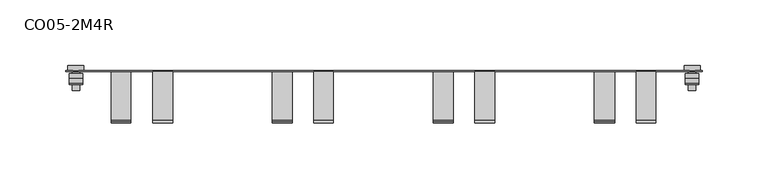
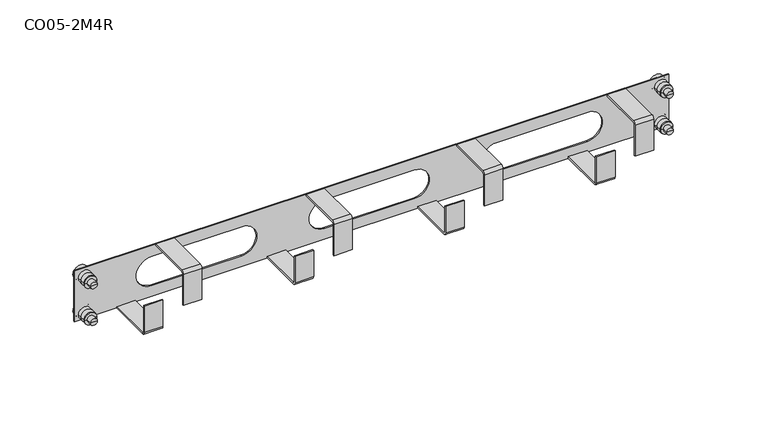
"""IFC4 building model written with IfcOpenShell, lengths in millimetres: proxy geometry, Кабельный организатор_2M4R : CO05-2M4R."""

from ifc_helpers import new_model, si_unit, point, frame, frame_2d, origin, place, context, project, spatial, polyline, circle_curve, ellipse_curve, trimmed, segment, composite_curve, outline, extrude, source, transform, mapped, element, save
from ifc_brep_helpers import plane_surface, cylinder_surface, revolved_surface, advanced_brep


def co05_2m4r_d7d3fd6c(model_context):
    return source(origin(), model_context, "Body", "SolidModel", [
        extrude(outline(composite_curve([segment(polyline([(-40.0242487, 14.6090777), (-40.0242487, 41.1999986)]), True, "CONTINUOUS"), segment(trimmed(circle_curve(frame_2d((-37.6242473, 41.1999986)), 2.4000014), [point((-40.0242487, 41.1999986))], [point((-37.6242473, 43.6))], False, "CARTESIAN"), True, "CONTINUOUS"), segment(polyline([(-37.6242473, 43.6), (-1.0, 43.6), (-1.0, 42.1261762), (-37.6242473, 42.1261762)]), True, "CONTINUOUS"), segment(trimmed(circle_curve(frame_2d((-37.6242473, 40.7261747)), 1.4000014), [point((-37.6242473, 42.1261762))], [point((-39.0242487, 40.7261747))], True, "CARTESIAN"), True, "CONTINUOUS"), segment(polyline([(-39.0242487, 40.7261747), (-39.0242487, 14.6090777), (-40.0242487, 14.6090777)]), True, "CONTINUOUS")], self_intersect=False)), frame((190.9689119, 0.0, 0.0), z_axis=(1.0, 0.0, 0.0), x_axis=(0.0, 1.0, 0.0)), (0.0, 0.0, 1.0), 15.0093264),
        extrude(outline(composite_curve([segment(polyline([(-40.0242487, 14.6090777), (-40.0242487, 41.1999986)]), True, "CONTINUOUS"), segment(trimmed(circle_curve(frame_2d((-37.6242473, 41.1999986)), 2.4000014), [point((-40.0242487, 41.1999986))], [point((-37.6242473, 43.6))], False, "CARTESIAN"), True, "CONTINUOUS"), segment(polyline([(-37.6242473, 43.6), (-1.0, 43.6), (-1.0, 42.1261762), (-37.6242473, 42.1261762)]), True, "CONTINUOUS"), segment(trimmed(circle_curve(frame_2d((-37.6242473, 40.7261747)), 1.4000014), [point((-37.6242473, 42.1261762))], [point((-39.0242487, 40.7261747))], True, "CARTESIAN"), True, "CONTINUOUS"), segment(polyline([(-39.0242487, 40.7261747), (-39.0242487, 14.6090777), (-40.0242487, 14.6090777)]), True, "CONTINUOUS")], self_intersect=False)), frame((68.893057, 0.0, 0.0), z_axis=(1.0, 0.0, 0.0), x_axis=(0.0, 1.0, 0.0)), (0.0, 0.0, 1.0), 15.0093264),
        extrude(outline(composite_curve([segment(polyline([(-40.0242487, 14.6090777), (-40.0242487, 41.1999986)]), True, "CONTINUOUS"), segment(trimmed(circle_curve(frame_2d((-37.6242473, 41.1999986)), 2.4000014), [point((-40.0242487, 41.1999986))], [point((-37.6242473, 43.6))], False, "CARTESIAN"), True, "CONTINUOUS"), segment(polyline([(-37.6242473, 43.6), (-1.0, 43.6), (-1.0, 42.1261762), (-37.6242473, 42.1261762)]), True, "CONTINUOUS"), segment(trimmed(circle_curve(frame_2d((-37.6242473, 40.7261747)), 1.4000014), [point((-37.6242473, 42.1261762))], [point((-39.0242487, 40.7261747))], True, "CARTESIAN"), True, "CONTINUOUS"), segment(polyline([(-39.0242487, 40.7261747), (-39.0242487, 14.6090777), (-40.0242487, 14.6090777)]), True, "CONTINUOUS")], self_intersect=False)), frame((-53.1827979, 0.0, 0.0), z_axis=(1.0, 0.0, 0.0), x_axis=(0.0, 1.0, 0.0)), (0.0, 0.0, 1.0), 14.759171),
        extrude(outline(composite_curve([segment(trimmed(circle_curve(frame_2d((-37.5967834, 2.4274653)), 2.4274653), [point((-37.5967834, 0.0))], [point((-40.0242487, 2.4274653))], False, "CARTESIAN"), True, "CONTINUOUS"), segment(polyline([(-40.0242487, 2.4274653), (-40.0242487, 25.015544), (-39.0242487, 25.015544), (-39.0242487, 2.9283979)]), True, "CONTINUOUS"), segment(trimmed(circle_curve(frame_2d((-37.5967834, 2.9283979)), 1.4274653), [point((-39.0242487, 2.9283979))], [point((-37.5967834, 1.5009326))], True, "CARTESIAN"), True, "CONTINUOUS"), segment(polyline([(-37.5967834, 1.5009326), (-1.0, 1.5009326), (-1.0, 0.0), (-37.5967834, 0.0)]), True, "CONTINUOUS")], self_intersect=False)), frame((159.4493264, 0.0, 0.0), z_axis=(1.0, 0.0, 0.0), x_axis=(0.0, 1.0, 0.0)), (0.0, 0.0, 1.0), 15.2594819),
        extrude(outline(composite_curve([segment(trimmed(circle_curve(frame_2d((-37.5967834, 2.4274653)), 2.4274653), [point((-37.5967834, 0.0))], [point((-40.0242487, 2.4274653))], False, "CARTESIAN"), True, "CONTINUOUS"), segment(polyline([(-40.0242487, 2.4274653), (-40.0242487, 25.015544), (-39.0242487, 25.015544), (-39.0242487, 2.9283979)]), True, "CONTINUOUS"), segment(trimmed(circle_curve(frame_2d((-37.5967834, 2.9283979)), 1.4274653), [point((-39.0242487, 2.9283979))], [point((-37.5967834, 1.5009326))], True, "CARTESIAN"), True, "CONTINUOUS"), segment(polyline([(-37.5967834, 1.5009326), (-1.0, 1.5009326), (-1.0, 0.0), (-37.5967834, 0.0)]), True, "CONTINUOUS")], self_intersect=False)), frame((37.3734715, 0.0, 0.0), z_axis=(1.0, 0.0, 0.0), x_axis=(0.0, 1.0, 0.0)), (0.0, 0.0, 1.0), 15.0093264),
        extrude(outline(composite_curve([segment(trimmed(circle_curve(frame_2d((-37.5967834, 2.4274653)), 2.4274653), [point((-37.5967834, 0.0))], [point((-40.0242487, 2.4274653))], False, "CARTESIAN"), True, "CONTINUOUS"), segment(polyline([(-40.0242487, 2.4274653), (-40.0242487, 25.015544), (-39.0242487, 25.015544), (-39.0242487, 2.9283979)]), True, "CONTINUOUS"), segment(trimmed(circle_curve(frame_2d((-37.5967834, 2.9283979)), 1.4274653), [point((-39.0242487, 2.9283979))], [point((-37.5967834, 1.5009326))], True, "CARTESIAN"), True, "CONTINUOUS"), segment(polyline([(-37.5967834, 1.5009326), (-1.0, 1.5009326), (-1.0, 0.0), (-37.5967834, 0.0)]), True, "CONTINUOUS")], self_intersect=False)), frame((-84.7023834, 0.0, 0.0), z_axis=(1.0, 0.0, 0.0), x_axis=(0.0, 1.0, 0.0)), (0.0, 0.0, 1.0), 15.0093264),
        extrude(outline(composite_curve([segment(polyline([(-40.0242487, 14.6090777), (-40.0242487, 41.1999986)]), True, "CONTINUOUS"), segment(trimmed(circle_curve(frame_2d((-37.6242473, 41.1999986)), 2.4000014), [point((-40.0242487, 41.1999986))], [point((-37.6242473, 43.6))], False, "CARTESIAN"), True, "CONTINUOUS"), segment(polyline([(-37.6242473, 43.6), (-1.0, 43.6), (-1.0, 42.6), (-37.6242473, 42.6)]), True, "CONTINUOUS"), segment(trimmed(circle_curve(frame_2d((-37.6242473, 41.1999986)), 1.4000014), [point((-37.6242473, 42.6))], [point((-39.0242487, 41.1999986))], True, "CARTESIAN"), True, "CONTINUOUS"), segment(polyline([(-39.0242487, 41.1999986), (-39.0242487, 14.6090777), (-40.0242487, 14.6090777)]), True, "CONTINUOUS")], self_intersect=False)), frame((-175.2586528, 0.0, 0.0), z_axis=(1.0, 0.0, 0.0), x_axis=(0.0, 1.0, 0.0)), (0.0, 0.0, 1.0), 15.0093264),
        extrude(outline(composite_curve([segment(trimmed(circle_curve(frame_2d((-37.5967834, 2.4274653)), 2.4274653), [point((-37.5967834, 0.0))], [point((-40.0242487, 2.4274653))], False, "CARTESIAN"), True, "CONTINUOUS"), segment(polyline([(-40.0242487, 2.4274653), (-40.0242487, 25.015544), (-39.0242487, 25.015544), (-39.0242487, 2.4274653)]), True, "CONTINUOUS"), segment(trimmed(circle_curve(frame_2d((-37.5967834, 2.4274653)), 1.4274653), [point((-39.0242487, 2.4274653))], [point((-37.5967834, 1.0))], True, "CARTESIAN"), True, "CONTINUOUS"), segment(polyline([(-37.5967834, 1.0), (-1.0, 1.0), (-1.0, 0.0), (-37.5967834, 0.0)]), True, "CONTINUOUS")], self_intersect=False)), frame((-206.7782383, 0.0, 0.0), z_axis=(1.0, 0.0, 0.0), x_axis=(0.0, 1.0, 0.0)), (0.0, 0.0, 1.0), 15.0093264),
        advanced_brep(
        [(239.6565731, 3.4999999, 5.9375), (227.3853774, 3.4999999, 5.9375), (233.5209752, 3.4999999, 5.9375), (239.6565731, 0.0, 5.9375), (227.3853774, 0.0, 5.9375), (236.4065702, 0.0, 5.9375), (230.6353803, 0.0, 5.9375), (236.4065702, -2.45, 5.9375), (230.6353803, -2.45, 5.9375), (238.6388411, -2.45, 5.9375), (228.4031094, -2.45, 5.9375), (238.6180366, -5.6500002, 5.9375), (228.4239138, -5.6500002, 5.9375), (238.6180366, -9.6499999, 5.9375), (228.4239138, -9.6499999, 5.9375), (238.5788913, -10.6500001, 5.9375), (228.4630592, -10.6500001, 5.9375), (236.4065702, -10.6500001, 5.9375), (230.6353803, -10.6500001, 5.9375), (236.4065702, -15.2500006, 5.9375), (230.6353803, -15.2500006, 5.9375), (233.5209752, -15.2500006, 5.9375)],
        [
            (0, 1, circle_curve(frame((233.5209752, 3.4999999, 5.9375), z_axis=(0.0, 1.0, 0.0), x_axis=(-1.0, 0.0, 0.0)), 6.1355978)),
            (1, 2),
            (2, 0),
            (1, 0, circle_curve(frame((233.5209752, 3.4999999, 5.9375), z_axis=(0.0, 1.0, 0.0), x_axis=(-1.0, 0.0, 0.0)), 6.1355978)),
            (3, 4, circle_curve(frame((233.5209752, 0.0, 5.9375), z_axis=(0.0, 1.0, 0.0), x_axis=(-1.0, 0.0, 0.0)), 6.1355978)),
            (4, 1),
            (0, 3),
            (4, 3, circle_curve(frame((233.5209752, 0.0, 5.9375), z_axis=(0.0, 1.0, 0.0), x_axis=(-1.0, 0.0, 0.0)), 6.1355978)),
            (5, 6, circle_curve(frame((233.5209752, 0.0, 5.9375), z_axis=(0.0, 1.0, 0.0), x_axis=(-1.0, 0.0, 0.0)), 2.885595)),
            (6, 4),
            (3, 5),
            (6, 5, circle_curve(frame((233.5209752, 0.0, 5.9375), z_axis=(0.0, 1.0, 0.0), x_axis=(-1.0, 0.0, 0.0)), 2.885595)),
            (7, 8, circle_curve(frame((233.5209752, -2.45, 5.9375), z_axis=(0.0, 1.0, 0.0), x_axis=(-1.0, 0.0, 0.0)), 2.885595)),
            (8, 6),
            (5, 7),
            (8, 7, circle_curve(frame((233.5209752, -2.45, 5.9375), z_axis=(0.0, 1.0, 0.0), x_axis=(-1.0, 0.0, 0.0)), 2.885595)),
            (9, 10, circle_curve(frame((233.5209752, -2.45, 5.9375), z_axis=(0.0, 1.0, 0.0), x_axis=(-1.0, 0.0, 0.0)), 5.1178658)),
            (10, 8),
            (7, 9),
            (10, 9, circle_curve(frame((233.5209752, -2.45, 5.9375), z_axis=(0.0, 1.0, 0.0), x_axis=(-1.0, 0.0, 0.0)), 5.1178658)),
            (11, 12, circle_curve(frame((233.5209752, -5.6500002, 5.9375), z_axis=(0.0, 1.0, 0.0), x_axis=(-1.0, 0.0, 0.0)), 5.0970614)),
            (12, 10, circle_curve(frame((213.032179, -4.1500002, 5.9375), z_axis=(0.0, 0.0, 1.0), x_axis=(0.0, 1.0, 0.0)), 15.4646533)),
            (9, 11, circle_curve(frame((254.0097715, -4.1500002, 5.9375), z_axis=(0.0, 0.0, 1.0), x_axis=(0.0, 1.0, 0.0)), 15.4646533)),
            (12, 11, circle_curve(frame((233.5209752, -5.6500002, 5.9375), z_axis=(0.0, 1.0, 0.0), x_axis=(-1.0, 0.0, 0.0)), 5.0970614)),
            (13, 14, circle_curve(frame((233.5209752, -9.6499999, 5.9375), z_axis=(0.0, 1.0, 0.0), x_axis=(-1.0, 0.0, 0.0)), 5.0970614)),
            (14, 12),
            (11, 13),
            (14, 13, circle_curve(frame((233.5209752, -9.6499999, 5.9375), z_axis=(0.0, 1.0, 0.0), x_axis=(-1.0, 0.0, 0.0)), 5.0970614)),
            (15, 16, circle_curve(frame((233.5209752, -10.6500001, 5.9375), z_axis=(0.0, 1.0, 0.0), x_axis=(-1.0, 0.0, 0.0)), 5.057916)),
            (16, 14, circle_curve(frame((234.8413605, -9.899553, 5.9375), z_axis=(0.0, 0.0, -1.0), x_axis=(0.0, 1.0, 0.0)), 6.4222969)),
            (13, 15, circle_curve(frame((232.20059, -9.899553, 5.9375), z_axis=(0.0, 0.0, -1.0), x_axis=(0.0, 1.0, 0.0)), 6.4222969)),
            (16, 15, circle_curve(frame((233.5209752, -10.6500001, 5.9375), z_axis=(0.0, 1.0, 0.0), x_axis=(-1.0, 0.0, 0.0)), 5.057916)),
            (17, 18, circle_curve(frame((233.5209752, -10.6500001, 5.9375), z_axis=(0.0, 1.0, 0.0), x_axis=(-1.0, 0.0, 0.0)), 2.885595)),
            (18, 16),
            (15, 17),
            (18, 17, circle_curve(frame((233.5209752, -10.6500001, 5.9375), z_axis=(0.0, 1.0, 0.0), x_axis=(-1.0, 0.0, 0.0)), 2.885595)),
            (19, 20, circle_curve(frame((233.5209752, -15.2500006, 5.9375), z_axis=(0.0, 1.0, 0.0), x_axis=(-1.0, 0.0, 0.0)), 2.885595)),
            (20, 18),
            (17, 19),
            (20, 19, circle_curve(frame((233.5209752, -15.2500006, 5.9375), z_axis=(0.0, 1.0, 0.0), x_axis=(-1.0, 0.0, 0.0)), 2.885595)),
            (21, 20),
            (19, 21),
        ],
        [
            plane_surface(frame((233.5209752, 3.4999999, 5.9375), z_axis=(0.0, 1.0, 0.0), x_axis=(-1.0, 0.0, 0.0))),
            cylinder_surface(frame((233.5209752, 3.4999999, 5.9375), z_axis=(0.0, -1.0, 0.0), x_axis=(-1.0, 0.0, 0.0)), 6.1355978),
            plane_surface(frame((233.5209752, 0.0, 5.9375), z_axis=(0.0, -1.0, 0.0), x_axis=(-1.0, 0.0, 0.0))),
            cylinder_surface(frame((233.5209752, 3.4999999, 5.9375), z_axis=(0.0, -1.0, 0.0), x_axis=(-1.0, 0.0, 0.0)), 2.885595),
            plane_surface(frame((233.5209752, -2.45, 5.9375), z_axis=(0.0, 1.0, 0.0), x_axis=(-1.0, 0.0, 0.0))),
            revolved_surface(trimmed(ellipse_curve(frame((213.032179, -4.1500002, 5.9375), z_axis=(0.0, 0.0, -1.0), x_axis=(0.0, 1.0, 0.0)), 15.4646533, 15.4646533), [point((228.4031094, -2.45, 5.9375))], [point((228.4239138, -5.6500002, 5.9375))], True, "CARTESIAN"), (233.5209752, 3.4999999, 5.9375), (0.0, -1.0, 0.0)),
            cylinder_surface(frame((233.5209752, 3.4999999, 5.9375), z_axis=(0.0, -1.0, 0.0), x_axis=(-1.0, 0.0, 0.0)), 5.0970614),
            revolved_surface(trimmed(ellipse_curve(frame((234.8413605, -9.899553, 5.9375), z_axis=(0.0, 0.0, 1.0), x_axis=(0.0, 1.0, 0.0)), 6.4222969, 6.4222969), [point((228.4239138, -9.6499999, 5.9375))], [point((228.4630592, -10.6500001, 5.9375))], True, "CARTESIAN"), (233.5209752, 3.4999999, 5.9375), (0.0, -1.0, 0.0)),
            plane_surface(frame((233.5209752, -10.6500001, 5.9375), z_axis=(0.0, -1.0, 0.0), x_axis=(-1.0, 0.0, 0.0))),
            plane_surface(frame((233.5209752, -15.2500006, 5.9375), z_axis=(0.0, -1.0, 0.0), x_axis=(-1.0, 0.0, 0.0))),
        ],
        [
            (0, [[1, 2, 3]]),
            (0, [[4, -3, -2]]),
            (1, [[5, 6, -1, 7]]),
            (1, [[8, -7, -4, -6]]),
            (2, [[9, 10, -5, 11]]),
            (2, [[12, -11, -8, -10]]),
            (3, [[13, 14, -9, 15]]),
            (3, [[16, -15, -12, -14]]),
            (4, [[17, 18, -13, 19]]),
            (4, [[20, -19, -16, -18]]),
            (5, [[21, 22, -17, 23]]),
            (5, [[24, -23, -20, -22]]),
            (6, [[25, 26, -21, 27]]),
            (6, [[28, -27, -24, -26]]),
            (7, [[29, 30, -25, 31]]),
            (7, [[32, -31, -28, -30]]),
            (8, [[33, 34, -29, 35]]),
            (8, [[36, -35, -32, -34]]),
            (3, [[37, 38, -33, 39]]),
            (3, [[40, -39, -36, -38]]),
            (9, [[41, -37, 42]]),
            (9, [[-42, -40, -41]]),
        ],
    ),
        advanced_brep(
        [(239.6565731, 3.4999999, 37.35), (227.3853774, 3.4999999, 37.35), (233.5209752, 3.4999999, 37.35), (239.6565731, 0.0, 37.35), (227.3853774, 0.0, 37.35), (236.4065702, 0.0, 37.35), (230.6353803, 0.0, 37.35), (236.4065702, -2.45, 37.35), (230.6353803, -2.45, 37.35), (238.6388411, -2.45, 37.35), (228.4031094, -2.45, 37.35), (238.6180366, -5.6500002, 37.35), (228.4239138, -5.6500002, 37.35), (238.6180366, -9.6499999, 37.35), (228.4239138, -9.6499999, 37.35), (238.5788913, -10.6500001, 37.35), (228.4630592, -10.6500001, 37.35), (236.4065702, -10.6500001, 37.35), (230.6353803, -10.6500001, 37.35), (236.4065702, -15.2500006, 37.35), (230.6353803, -15.2500006, 37.35), (233.5209752, -15.2500006, 37.35)],
        [
            (0, 1, circle_curve(frame((233.5209752, 3.4999999, 37.35), z_axis=(0.0, 1.0, 0.0), x_axis=(-1.0, 0.0, 0.0)), 6.1355978)),
            (1, 2),
            (2, 0),
            (1, 0, circle_curve(frame((233.5209752, 3.4999999, 37.35), z_axis=(0.0, 1.0, 0.0), x_axis=(-1.0, 0.0, 0.0)), 6.1355978)),
            (3, 4, circle_curve(frame((233.5209752, 0.0, 37.35), z_axis=(0.0, 1.0, 0.0), x_axis=(-1.0, 0.0, 0.0)), 6.1355978)),
            (4, 1),
            (0, 3),
            (4, 3, circle_curve(frame((233.5209752, 0.0, 37.35), z_axis=(0.0, 1.0, 0.0), x_axis=(-1.0, 0.0, 0.0)), 6.1355978)),
            (5, 6, circle_curve(frame((233.5209752, 0.0, 37.35), z_axis=(0.0, 1.0, 0.0), x_axis=(-1.0, 0.0, 0.0)), 2.885595)),
            (6, 4),
            (3, 5),
            (6, 5, circle_curve(frame((233.5209752, 0.0, 37.35), z_axis=(0.0, 1.0, 0.0), x_axis=(-1.0, 0.0, 0.0)), 2.885595)),
            (7, 8, circle_curve(frame((233.5209752, -2.45, 37.35), z_axis=(0.0, 1.0, 0.0), x_axis=(-1.0, 0.0, 0.0)), 2.885595)),
            (8, 6),
            (5, 7),
            (8, 7, circle_curve(frame((233.5209752, -2.45, 37.35), z_axis=(0.0, 1.0, 0.0), x_axis=(-1.0, 0.0, 0.0)), 2.885595)),
            (9, 10, circle_curve(frame((233.5209752, -2.45, 37.35), z_axis=(0.0, 1.0, 0.0), x_axis=(-1.0, 0.0, 0.0)), 5.1178658)),
            (10, 8),
            (7, 9),
            (10, 9, circle_curve(frame((233.5209752, -2.45, 37.35), z_axis=(0.0, 1.0, 0.0), x_axis=(-1.0, 0.0, 0.0)), 5.1178658)),
            (11, 12, circle_curve(frame((233.5209752, -5.6500002, 37.35), z_axis=(0.0, 1.0, 0.0), x_axis=(-1.0, 0.0, 0.0)), 5.0970614)),
            (12, 10, circle_curve(frame((213.032179, -4.1500002, 37.35), z_axis=(0.0, 0.0, 1.0), x_axis=(0.0, 1.0, 0.0)), 15.4646533)),
            (9, 11, circle_curve(frame((254.0097715, -4.1500002, 37.35), z_axis=(0.0, 0.0, 1.0), x_axis=(0.0, 1.0, 0.0)), 15.4646533)),
            (12, 11, circle_curve(frame((233.5209752, -5.6500002, 37.35), z_axis=(0.0, 1.0, 0.0), x_axis=(-1.0, 0.0, 0.0)), 5.0970614)),
            (13, 14, circle_curve(frame((233.5209752, -9.6499999, 37.35), z_axis=(0.0, 1.0, 0.0), x_axis=(-1.0, 0.0, 0.0)), 5.0970614)),
            (14, 12),
            (11, 13),
            (14, 13, circle_curve(frame((233.5209752, -9.6499999, 37.35), z_axis=(0.0, 1.0, 0.0), x_axis=(-1.0, 0.0, 0.0)), 5.0970614)),
            (15, 16, circle_curve(frame((233.5209752, -10.6500001, 37.35), z_axis=(0.0, 1.0, 0.0), x_axis=(-1.0, 0.0, 0.0)), 5.057916)),
            (16, 14, circle_curve(frame((234.8413605, -9.899553, 37.35), z_axis=(0.0, 0.0, -1.0), x_axis=(0.0, 1.0, 0.0)), 6.4222969)),
            (13, 15, circle_curve(frame((232.20059, -9.899553, 37.35), z_axis=(0.0, 0.0, -1.0), x_axis=(0.0, 1.0, 0.0)), 6.4222969)),
            (16, 15, circle_curve(frame((233.5209752, -10.6500001, 37.35), z_axis=(0.0, 1.0, 0.0), x_axis=(-1.0, 0.0, 0.0)), 5.057916)),
            (17, 18, circle_curve(frame((233.5209752, -10.6500001, 37.35), z_axis=(0.0, 1.0, 0.0), x_axis=(-1.0, 0.0, 0.0)), 2.885595)),
            (18, 16),
            (15, 17),
            (18, 17, circle_curve(frame((233.5209752, -10.6500001, 37.35), z_axis=(0.0, 1.0, 0.0), x_axis=(-1.0, 0.0, 0.0)), 2.885595)),
            (19, 20, circle_curve(frame((233.5209752, -15.2500006, 37.35), z_axis=(0.0, 1.0, 0.0), x_axis=(-1.0, 0.0, 0.0)), 2.885595)),
            (20, 18),
            (17, 19),
            (20, 19, circle_curve(frame((233.5209752, -15.2500006, 37.35), z_axis=(0.0, 1.0, 0.0), x_axis=(-1.0, 0.0, 0.0)), 2.885595)),
            (21, 20),
            (19, 21),
        ],
        [
            plane_surface(frame((233.5209752, 3.4999999, 37.35), z_axis=(0.0, 1.0, 0.0), x_axis=(-1.0, 0.0, 0.0))),
            cylinder_surface(frame((233.5209752, 3.4999999, 37.35), z_axis=(0.0, -1.0, 0.0), x_axis=(-1.0, 0.0, 0.0)), 6.1355978),
            plane_surface(frame((233.5209752, 0.0, 37.35), z_axis=(0.0, -1.0, 0.0), x_axis=(-1.0, 0.0, 0.0))),
            cylinder_surface(frame((233.5209752, 3.4999999, 37.35), z_axis=(0.0, -1.0, 0.0), x_axis=(-1.0, 0.0, 0.0)), 2.885595),
            plane_surface(frame((233.5209752, -2.45, 37.35), z_axis=(0.0, 1.0, 0.0), x_axis=(-1.0, 0.0, 0.0))),
            revolved_surface(trimmed(ellipse_curve(frame((213.032179, -4.1500002, 37.35), z_axis=(0.0, 0.0, -1.0), x_axis=(0.0, 1.0, 0.0)), 15.4646533, 15.4646533), [point((228.4031094, -2.45, 37.35))], [point((228.4239138, -5.6500002, 37.35))], True, "CARTESIAN"), (233.5209752, 3.4999999, 37.35), (0.0, -1.0, 0.0)),
            cylinder_surface(frame((233.5209752, 3.4999999, 37.35), z_axis=(0.0, -1.0, 0.0), x_axis=(-1.0, 0.0, 0.0)), 5.0970614),
            revolved_surface(trimmed(ellipse_curve(frame((234.8413605, -9.899553, 37.35), z_axis=(0.0, 0.0, 1.0), x_axis=(0.0, 1.0, 0.0)), 6.4222969, 6.4222969), [point((228.4239138, -9.6499999, 37.35))], [point((228.4630592, -10.6500001, 37.35))], True, "CARTESIAN"), (233.5209752, 3.4999999, 37.35), (0.0, -1.0, 0.0)),
            plane_surface(frame((233.5209752, -10.6500001, 37.35), z_axis=(0.0, -1.0, 0.0), x_axis=(-1.0, 0.0, 0.0))),
            plane_surface(frame((233.5209752, -15.2500006, 37.35), z_axis=(0.0, -1.0, 0.0), x_axis=(-1.0, 0.0, 0.0))),
        ],
        [
            (0, [[1, 2, 3]]),
            (0, [[4, -3, -2]]),
            (1, [[5, 6, -1, 7]]),
            (1, [[8, -7, -4, -6]]),
            (2, [[9, 10, -5, 11]]),
            (2, [[12, -11, -8, -10]]),
            (3, [[13, 14, -9, 15]]),
            (3, [[16, -15, -12, -14]]),
            (4, [[17, 18, -13, 19]]),
            (4, [[20, -19, -16, -18]]),
            (5, [[21, 22, -17, 23]]),
            (5, [[24, -23, -20, -22]]),
            (6, [[25, 26, -21, 27]]),
            (6, [[28, -27, -24, -26]]),
            (7, [[29, 30, -25, 31]]),
            (7, [[32, -31, -28, -30]]),
            (8, [[33, 34, -29, 35]]),
            (8, [[36, -35, -32, -34]]),
            (3, [[37, 38, -33, 39]]),
            (3, [[40, -39, -36, -38]]),
            (9, [[41, -37, 42]]),
            (9, [[-42, -40, -41]]),
        ],
    ),
        advanced_brep(
        [(-227.3898203, 3.4999999, 37.35), (-239.661016, 3.4999999, 37.35), (-233.5254182, 3.4999999, 37.35), (-227.3898203, 0.0, 37.35), (-239.661016, 0.0, 37.35), (-230.6398232, 0.0, 37.35), (-236.4110131, 0.0, 37.35), (-230.6398232, -2.45, 37.35), (-236.4110131, -2.45, 37.35), (-228.4075523, -2.45, 37.35), (-238.643284, -2.45, 37.35), (-228.4283568, -5.6500002, 37.35), (-238.6224795, -5.6500002, 37.35), (-228.4283568, -9.6499999, 37.35), (-238.6224795, -9.6499999, 37.35), (-228.4675021, -10.6500001, 37.35), (-238.5833342, -10.6500001, 37.35), (-230.6398232, -10.6500001, 37.35), (-236.4110131, -10.6500001, 37.35), (-230.6398232, -15.2500006, 37.35), (-236.4110131, -15.2500006, 37.35), (-233.5254182, -15.2500006, 37.35)],
        [
            (0, 1, circle_curve(frame((-233.5254182, 3.4999999, 37.35), z_axis=(0.0, 1.0, 0.0), x_axis=(-1.0, 0.0, 0.0)), 6.1355978)),
            (1, 2),
            (2, 0),
            (1, 0, circle_curve(frame((-233.5254182, 3.4999999, 37.35), z_axis=(0.0, 1.0, 0.0), x_axis=(-1.0, 0.0, 0.0)), 6.1355978)),
            (3, 4, circle_curve(frame((-233.5254182, 0.0, 37.35), z_axis=(0.0, 1.0, 0.0), x_axis=(-1.0, 0.0, 0.0)), 6.1355978)),
            (4, 1),
            (0, 3),
            (4, 3, circle_curve(frame((-233.5254182, 0.0, 37.35), z_axis=(0.0, 1.0, 0.0), x_axis=(-1.0, 0.0, 0.0)), 6.1355978)),
            (5, 6, circle_curve(frame((-233.5254182, 0.0, 37.35), z_axis=(0.0, 1.0, 0.0), x_axis=(-1.0, 0.0, 0.0)), 2.885595)),
            (6, 4),
            (3, 5),
            (6, 5, circle_curve(frame((-233.5254182, 0.0, 37.35), z_axis=(0.0, 1.0, 0.0), x_axis=(-1.0, 0.0, 0.0)), 2.885595)),
            (7, 8, circle_curve(frame((-233.5254182, -2.45, 37.35), z_axis=(0.0, 1.0, 0.0), x_axis=(-1.0, 0.0, 0.0)), 2.885595)),
            (8, 6),
            (5, 7),
            (8, 7, circle_curve(frame((-233.5254182, -2.45, 37.35), z_axis=(0.0, 1.0, 0.0), x_axis=(-1.0, 0.0, 0.0)), 2.885595)),
            (9, 10, circle_curve(frame((-233.5254182, -2.45, 37.35), z_axis=(0.0, 1.0, 0.0), x_axis=(-1.0, 0.0, 0.0)), 5.1178658)),
            (10, 8),
            (7, 9),
            (10, 9, circle_curve(frame((-233.5254182, -2.45, 37.35), z_axis=(0.0, 1.0, 0.0), x_axis=(-1.0, 0.0, 0.0)), 5.1178658)),
            (11, 12, circle_curve(frame((-233.5254182, -5.6500002, 37.35), z_axis=(0.0, 1.0, 0.0), x_axis=(-1.0, 0.0, 0.0)), 5.0970614)),
            (12, 10, circle_curve(frame((-254.0142144, -4.1500002, 37.35), z_axis=(0.0, 0.0, 1.0), x_axis=(0.0, 1.0, 0.0)), 15.4646533)),
            (9, 11, circle_curve(frame((-213.0366219, -4.1500002, 37.35), z_axis=(0.0, 0.0, 1.0), x_axis=(0.0, 1.0, 0.0)), 15.4646533)),
            (12, 11, circle_curve(frame((-233.5254182, -5.6500002, 37.35), z_axis=(0.0, 1.0, 0.0), x_axis=(-1.0, 0.0, 0.0)), 5.0970614)),
            (13, 14, circle_curve(frame((-233.5254182, -9.6499999, 37.35), z_axis=(0.0, 1.0, 0.0), x_axis=(-1.0, 0.0, 0.0)), 5.0970614)),
            (14, 12),
            (11, 13),
            (14, 13, circle_curve(frame((-233.5254182, -9.6499999, 37.35), z_axis=(0.0, 1.0, 0.0), x_axis=(-1.0, 0.0, 0.0)), 5.0970614)),
            (15, 16, circle_curve(frame((-233.5254182, -10.6500001, 37.35), z_axis=(0.0, 1.0, 0.0), x_axis=(-1.0, 0.0, 0.0)), 5.057916)),
            (16, 14, circle_curve(frame((-232.2050329, -9.899553, 37.35), z_axis=(0.0, 0.0, -1.0), x_axis=(0.0, 1.0, 0.0)), 6.4222969)),
            (13, 15, circle_curve(frame((-234.8458034, -9.899553, 37.35), z_axis=(0.0, 0.0, -1.0), x_axis=(0.0, 1.0, 0.0)), 6.4222969)),
            (16, 15, circle_curve(frame((-233.5254182, -10.6500001, 37.35), z_axis=(0.0, 1.0, 0.0), x_axis=(-1.0, 0.0, 0.0)), 5.057916)),
            (17, 18, circle_curve(frame((-233.5254182, -10.6500001, 37.35), z_axis=(0.0, 1.0, 0.0), x_axis=(-1.0, 0.0, 0.0)), 2.885595)),
            (18, 16),
            (15, 17),
            (18, 17, circle_curve(frame((-233.5254182, -10.6500001, 37.35), z_axis=(0.0, 1.0, 0.0), x_axis=(-1.0, 0.0, 0.0)), 2.885595)),
            (19, 20, circle_curve(frame((-233.5254182, -15.2500006, 37.35), z_axis=(0.0, 1.0, 0.0), x_axis=(-1.0, 0.0, 0.0)), 2.885595)),
            (20, 18),
            (17, 19),
            (20, 19, circle_curve(frame((-233.5254182, -15.2500006, 37.35), z_axis=(0.0, 1.0, 0.0), x_axis=(-1.0, 0.0, 0.0)), 2.885595)),
            (21, 20),
            (19, 21),
        ],
        [
            plane_surface(frame((-233.5254182, 3.4999999, 37.35), z_axis=(0.0, 1.0, 0.0), x_axis=(-1.0, 0.0, 0.0))),
            cylinder_surface(frame((-233.5254182, 3.4999999, 37.35), z_axis=(0.0, -1.0, 0.0), x_axis=(-1.0, 0.0, 0.0)), 6.1355978),
            plane_surface(frame((-233.5254182, 0.0, 37.35), z_axis=(0.0, -1.0, 0.0), x_axis=(-1.0, 0.0, 0.0))),
            cylinder_surface(frame((-233.5254182, 3.4999999, 37.35), z_axis=(0.0, -1.0, 0.0), x_axis=(-1.0, 0.0, 0.0)), 2.885595),
            plane_surface(frame((-233.5254182, -2.45, 37.35), z_axis=(0.0, 1.0, 0.0), x_axis=(-1.0, 0.0, 0.0))),
            revolved_surface(trimmed(ellipse_curve(frame((-254.0142144, -4.1500002, 37.35), z_axis=(0.0, 0.0, -1.0), x_axis=(0.0, 1.0, 0.0)), 15.4646533, 15.4646533), [point((-238.643284, -2.45, 37.35))], [point((-238.6224795, -5.6500002, 37.35))], True, "CARTESIAN"), (-233.5254182, 3.4999999, 37.35), (0.0, -1.0, 0.0)),
            cylinder_surface(frame((-233.5254182, 3.4999999, 37.35), z_axis=(0.0, -1.0, 0.0), x_axis=(-1.0, 0.0, 0.0)), 5.0970614),
            revolved_surface(trimmed(ellipse_curve(frame((-232.2050329, -9.899553, 37.35), z_axis=(0.0, 0.0, 1.0), x_axis=(0.0, 1.0, 0.0)), 6.4222969, 6.4222969), [point((-238.6224795, -9.6499999, 37.35))], [point((-238.5833342, -10.6500001, 37.35))], True, "CARTESIAN"), (-233.5254182, 3.4999999, 37.35), (0.0, -1.0, 0.0)),
            plane_surface(frame((-233.5254182, -10.6500001, 37.35), z_axis=(0.0, -1.0, 0.0), x_axis=(-1.0, 0.0, 0.0))),
            plane_surface(frame((-233.5254182, -15.2500006, 37.35), z_axis=(0.0, -1.0, 0.0), x_axis=(-1.0, 0.0, 0.0))),
        ],
        [
            (0, [[1, 2, 3]]),
            (0, [[4, -3, -2]]),
            (1, [[5, 6, -1, 7]]),
            (1, [[8, -7, -4, -6]]),
            (2, [[9, 10, -5, 11]]),
            (2, [[12, -11, -8, -10]]),
            (3, [[13, 14, -9, 15]]),
            (3, [[16, -15, -12, -14]]),
            (4, [[17, 18, -13, 19]]),
            (4, [[20, -19, -16, -18]]),
            (5, [[21, 22, -17, 23]]),
            (5, [[24, -23, -20, -22]]),
            (6, [[25, 26, -21, 27]]),
            (6, [[28, -27, -24, -26]]),
            (7, [[29, 30, -25, 31]]),
            (7, [[32, -31, -28, -30]]),
            (8, [[33, 34, -29, 35]]),
            (8, [[36, -35, -32, -34]]),
            (3, [[37, 38, -33, 39]]),
            (3, [[40, -39, -36, -38]]),
            (9, [[41, -37, 42]]),
            (9, [[-42, -40, -41]]),
        ],
    ),
        advanced_brep(
        [(-227.3898203, 3.4999999, 5.9375), (-239.661016, 3.4999999, 5.9375), (-233.5254182, 3.4999999, 5.9375), (-227.3898203, 0.0, 5.9375), (-239.661016, 0.0, 5.9375), (-230.6398232, 0.0, 5.9375), (-236.4110131, 0.0, 5.9375), (-230.6398232, -2.45, 5.9375), (-236.4110131, -2.45, 5.9375), (-228.4075523, -2.45, 5.9375), (-238.643284, -2.45, 5.9375), (-228.4283568, -5.6500002, 5.9375), (-238.6224795, -5.6500002, 5.9375), (-228.4283568, -9.6499999, 5.9375), (-238.6224795, -9.6499999, 5.9375), (-228.4675021, -10.6500001, 5.9375), (-238.5833342, -10.6500001, 5.9375), (-230.6398232, -10.6500001, 5.9375), (-236.4110131, -10.6500001, 5.9375), (-230.6398232, -15.2500006, 5.9375), (-236.4110131, -15.2500006, 5.9375), (-233.5254182, -15.2500006, 5.9375)],
        [
            (0, 1, circle_curve(frame((-233.5254182, 3.4999999, 5.9375), z_axis=(0.0, 1.0, 0.0), x_axis=(-1.0, 0.0, 0.0)), 6.1355978)),
            (1, 2),
            (2, 0),
            (1, 0, circle_curve(frame((-233.5254182, 3.4999999, 5.9375), z_axis=(0.0, 1.0, 0.0), x_axis=(-1.0, 0.0, 0.0)), 6.1355978)),
            (3, 4, circle_curve(frame((-233.5254182, 0.0, 5.9375), z_axis=(0.0, 1.0, 0.0), x_axis=(-1.0, 0.0, 0.0)), 6.1355978)),
            (4, 1),
            (0, 3),
            (4, 3, circle_curve(frame((-233.5254182, 0.0, 5.9375), z_axis=(0.0, 1.0, 0.0), x_axis=(-1.0, 0.0, 0.0)), 6.1355978)),
            (5, 6, circle_curve(frame((-233.5254182, 0.0, 5.9375), z_axis=(0.0, 1.0, 0.0), x_axis=(-1.0, 0.0, 0.0)), 2.885595)),
            (6, 4),
            (3, 5),
            (6, 5, circle_curve(frame((-233.5254182, 0.0, 5.9375), z_axis=(0.0, 1.0, 0.0), x_axis=(-1.0, 0.0, 0.0)), 2.885595)),
            (7, 8, circle_curve(frame((-233.5254182, -2.45, 5.9375), z_axis=(0.0, 1.0, 0.0), x_axis=(-1.0, 0.0, 0.0)), 2.885595)),
            (8, 6),
            (5, 7),
            (8, 7, circle_curve(frame((-233.5254182, -2.45, 5.9375), z_axis=(0.0, 1.0, 0.0), x_axis=(-1.0, 0.0, 0.0)), 2.885595)),
            (9, 10, circle_curve(frame((-233.5254182, -2.45, 5.9375), z_axis=(0.0, 1.0, 0.0), x_axis=(-1.0, 0.0, 0.0)), 5.1178658)),
            (10, 8),
            (7, 9),
            (10, 9, circle_curve(frame((-233.5254182, -2.45, 5.9375), z_axis=(0.0, 1.0, 0.0), x_axis=(-1.0, 0.0, 0.0)), 5.1178658)),
            (11, 12, circle_curve(frame((-233.5254182, -5.6500002, 5.9375), z_axis=(0.0, 1.0, 0.0), x_axis=(-1.0, 0.0, 0.0)), 5.0970614)),
            (12, 10, circle_curve(frame((-254.0142144, -4.1500002, 5.9375), z_axis=(0.0, 0.0, 1.0), x_axis=(0.0, 1.0, 0.0)), 15.4646533)),
            (9, 11, circle_curve(frame((-213.0366219, -4.1500002, 5.9375), z_axis=(0.0, 0.0, 1.0), x_axis=(0.0, 1.0, 0.0)), 15.4646533)),
            (12, 11, circle_curve(frame((-233.5254182, -5.6500002, 5.9375), z_axis=(0.0, 1.0, 0.0), x_axis=(-1.0, 0.0, 0.0)), 5.0970614)),
            (13, 14, circle_curve(frame((-233.5254182, -9.6499999, 5.9375), z_axis=(0.0, 1.0, 0.0), x_axis=(-1.0, 0.0, 0.0)), 5.0970614)),
            (14, 12),
            (11, 13),
            (14, 13, circle_curve(frame((-233.5254182, -9.6499999, 5.9375), z_axis=(0.0, 1.0, 0.0), x_axis=(-1.0, 0.0, 0.0)), 5.0970614)),
            (15, 16, circle_curve(frame((-233.5254182, -10.6500001, 5.9375), z_axis=(0.0, 1.0, 0.0), x_axis=(-1.0, 0.0, 0.0)), 5.057916)),
            (16, 14, circle_curve(frame((-232.2050329, -9.899553, 5.9375), z_axis=(0.0, 0.0, -1.0), x_axis=(0.0, 1.0, 0.0)), 6.4222969)),
            (13, 15, circle_curve(frame((-234.8458034, -9.899553, 5.9375), z_axis=(0.0, 0.0, -1.0), x_axis=(0.0, 1.0, 0.0)), 6.4222969)),
            (16, 15, circle_curve(frame((-233.5254182, -10.6500001, 5.9375), z_axis=(0.0, 1.0, 0.0), x_axis=(-1.0, 0.0, 0.0)), 5.057916)),
            (17, 18, circle_curve(frame((-233.5254182, -10.6500001, 5.9375), z_axis=(0.0, 1.0, 0.0), x_axis=(-1.0, 0.0, 0.0)), 2.885595)),
            (18, 16),
            (15, 17),
            (18, 17, circle_curve(frame((-233.5254182, -10.6500001, 5.9375), z_axis=(0.0, 1.0, 0.0), x_axis=(-1.0, 0.0, 0.0)), 2.885595)),
            (19, 20, circle_curve(frame((-233.5254182, -15.2500006, 5.9375), z_axis=(0.0, 1.0, 0.0), x_axis=(-1.0, 0.0, 0.0)), 2.885595)),
            (20, 18),
            (17, 19),
            (20, 19, circle_curve(frame((-233.5254182, -15.2500006, 5.9375), z_axis=(0.0, 1.0, 0.0), x_axis=(-1.0, 0.0, 0.0)), 2.885595)),
            (21, 20),
            (19, 21),
        ],
        [
            plane_surface(frame((-233.5254182, 3.4999999, 5.9375), z_axis=(0.0, 1.0, 0.0), x_axis=(-1.0, 0.0, 0.0))),
            cylinder_surface(frame((-233.5254182, 3.4999999, 5.9375), z_axis=(0.0, -1.0, 0.0), x_axis=(-1.0, 0.0, 0.0)), 6.1355978),
            plane_surface(frame((-233.5254182, 0.0, 5.9375), z_axis=(0.0, -1.0, 0.0), x_axis=(-1.0, 0.0, 0.0))),
            cylinder_surface(frame((-233.5254182, 3.4999999, 5.9375), z_axis=(0.0, -1.0, 0.0), x_axis=(-1.0, 0.0, 0.0)), 2.885595),
            plane_surface(frame((-233.5254182, -2.45, 5.9375), z_axis=(0.0, 1.0, 0.0), x_axis=(-1.0, 0.0, 0.0))),
            revolved_surface(trimmed(ellipse_curve(frame((-254.0142144, -4.1500002, 5.9375), z_axis=(0.0, 0.0, -1.0), x_axis=(0.0, 1.0, 0.0)), 15.4646533, 15.4646533), [point((-238.643284, -2.45, 5.9375))], [point((-238.6224795, -5.6500002, 5.9375))], True, "CARTESIAN"), (-233.5254182, 3.4999999, 5.9375), (0.0, -1.0, 0.0)),
            cylinder_surface(frame((-233.5254182, 3.4999999, 5.9375), z_axis=(0.0, -1.0, 0.0), x_axis=(-1.0, 0.0, 0.0)), 5.0970614),
            revolved_surface(trimmed(ellipse_curve(frame((-232.2050329, -9.899553, 5.9375), z_axis=(0.0, 0.0, 1.0), x_axis=(0.0, 1.0, 0.0)), 6.4222969, 6.4222969), [point((-238.6224795, -9.6499999, 5.9375))], [point((-238.5833342, -10.6500001, 5.9375))], True, "CARTESIAN"), (-233.5254182, 3.4999999, 5.9375), (0.0, -1.0, 0.0)),
            plane_surface(frame((-233.5254182, -10.6500001, 5.9375), z_axis=(0.0, -1.0, 0.0), x_axis=(-1.0, 0.0, 0.0))),
            plane_surface(frame((-233.5254182, -15.2500006, 5.9375), z_axis=(0.0, -1.0, 0.0), x_axis=(-1.0, 0.0, 0.0))),
        ],
        [
            (0, [[1, 2, 3]]),
            (0, [[4, -3, -2]]),
            (1, [[5, 6, -1, 7]]),
            (1, [[8, -7, -4, -6]]),
            (2, [[9, 10, -5, 11]]),
            (2, [[12, -11, -8, -10]]),
            (3, [[13, 14, -9, 15]]),
            (3, [[16, -15, -12, -14]]),
            (4, [[17, 18, -13, 19]]),
            (4, [[20, -19, -16, -18]]),
            (5, [[21, 22, -17, 23]]),
            (5, [[24, -23, -20, -22]]),
            (6, [[25, 26, -21, 27]]),
            (6, [[28, -27, -24, -26]]),
            (7, [[29, 30, -25, 31]]),
            (7, [[32, -31, -28, -30]]),
            (8, [[33, 34, -29, 35]]),
            (8, [[36, -35, -32, -34]]),
            (3, [[37, 38, -33, 39]]),
            (3, [[40, -39, -36, -38]]),
            (9, [[41, -37, 42]]),
            (9, [[-42, -40, -41]]),
        ],
    ),
        extrude(outline(polyline([(43.6, 241.0), (43.6, -241.0), (0.0, -241.0), (0.0, 241.0), (43.6, 241.0)]), holes=[composite_curve([segment(trimmed(circle_curve(frame_2d((37.35, -233.5254182)), 2.967284), [point((37.35, -236.4927021))], [point((37.35, -230.5581342))], True, "CARTESIAN"), True, "CONTINUOUS"), segment(trimmed(circle_curve(frame_2d((37.35, -233.5254182)), 2.967284), [point((37.35, -230.5581342))], [point((37.35, -236.4927021))], True, "CARTESIAN"), True, "CONTINUOUS")], self_intersect=False), composite_curve([segment(trimmed(circle_curve(frame_2d((5.9375, -233.5254182)), 2.967284), [point((5.9375, -236.4927021))], [point((5.9375, -230.5581342))], True, "CARTESIAN"), True, "CONTINUOUS"), segment(trimmed(circle_curve(frame_2d((5.9375, -233.5254182)), 2.967284), [point((5.9375, -230.5581342))], [point((5.9375, -236.4927021))], True, "CARTESIAN"), True, "CONTINUOUS")], self_intersect=False), composite_curve([segment(trimmed(circle_curve(frame_2d((37.35, 233.5254182)), 2.967284), [point((37.35, 230.5581342))], [point((37.35, 236.4927021))], True, "CARTESIAN"), True, "CONTINUOUS"), segment(trimmed(circle_curve(frame_2d((37.35, 233.5254182)), 2.967284), [point((37.35, 236.4927021))], [point((37.35, 230.5581342))], True, "CARTESIAN"), True, "CONTINUOUS")], self_intersect=False), composite_curve([segment(trimmed(circle_curve(frame_2d((5.9375, 233.5254182)), 2.967284), [point((5.9375, 230.5581342))], [point((5.9375, 236.4927021))], True, "CARTESIAN"), True, "CONTINUOUS"), segment(trimmed(circle_curve(frame_2d((5.9375, 233.5254182)), 2.967284), [point((5.9375, 236.4927021))], [point((5.9375, 230.5581342))], True, "CARTESIAN"), True, "CONTINUOUS")], self_intersect=False), composite_curve([segment(trimmed(circle_curve(frame_2d((21.6135544, -105.465285)), 12.3708938), [point((33.9844482, -105.465285))], [point((9.2426606, -105.465285))], True, "CARTESIAN"), True, "CONTINUOUS"), segment(polyline([(9.2426606, -105.465285), (9.2426606, -178.5106736)]), True, "CONTINUOUS"), segment(trimmed(circle_curve(frame_2d((21.6135544, -178.5106736)), 12.3708938), [point((9.2426606, -178.5106736))], [point((33.9844482, -178.5106736))], True, "CARTESIAN"), True, "CONTINUOUS"), segment(polyline([(33.9844482, -178.5106736), (33.9844482, -105.465285)]), True, "CONTINUOUS")], self_intersect=False), composite_curve([segment(trimmed(circle_curve(frame_2d((21.4573044, -38.4236269)), 12.2146438), [point((9.2426606, -38.4236269))], [point((33.6719482, -38.4236269))], True, "CARTESIAN"), True, "CONTINUOUS"), segment(polyline([(33.6719482, -38.4236269), (33.6719482, 34.6217617)]), True, "CONTINUOUS"), segment(trimmed(circle_curve(frame_2d((21.4573044, 34.6217617)), 12.2146438), [point((33.6719482, 34.6217617))], [point((9.2426606, 34.6217617))], True, "CARTESIAN"), True, "CONTINUOUS"), segment(polyline([(9.2426606, 34.6217617), (9.2426606, -38.4236269)]), True, "CONTINUOUS")], self_intersect=False), composite_curve([segment(trimmed(circle_curve(frame_2d((21.6135544, 101.6634197)), 12.3708938), [point((9.2426606, 101.6634197))], [point((33.9844482, 101.6634197))], True, "CARTESIAN"), True, "CONTINUOUS"), segment(polyline([(33.9844482, 101.6634197), (33.9844482, 174.7088083)]), True, "CONTINUOUS"), segment(trimmed(circle_curve(frame_2d((21.6135544, 174.7088083)), 12.3708938), [point((33.9844482, 174.7088083))], [point((9.2426606, 174.7088083))], True, "CARTESIAN"), True, "CONTINUOUS"), segment(polyline([(9.2426606, 174.7088083), (9.2426606, 101.6634197)]), True, "CONTINUOUS")], self_intersect=False)]), frame((0.0, -1.0, 0.0), z_axis=(0.0, 1.0, 0.0), x_axis=(0.0, 0.0, 1.0)), (0.0, 0.0, 1.0), 1.0),
    ])


if __name__ == "__main__":
    model = new_model("IFC4")
    model_context = context("Model", 3, world=origin())
    ifc_project = project(units=[si_unit("LENGTHUNIT", "METRE", prefix="MILLI")], contexts=[model_context])
    site = spatial("IfcSite", under=ifc_project)
    building = spatial("IfcBuilding", under=site)
    placement = place(None, origin())
    co05_2m4r_shape = co05_2m4r_d7d3fd6c(model_context)
    element("IfcBuildingElementProxy", 1, Name="Кабельный организатор_2M4R : CO05-2M4R", ObjectType="Кабельный организатор_2M4R : CO05-2M4R", at=placement, inside=building, context=model_context, shape_type="MappedRepresentation", body=[
        mapped(co05_2m4r_shape, transform((0.0, 0.0, 0.0), x_axis=(1.0, 0.0, 0.0), y_axis=(0.0, 1.0, 0.0), z_axis=(0.0, 0.0, 1.0))),
    ])
    save(model, "model.ifc")
